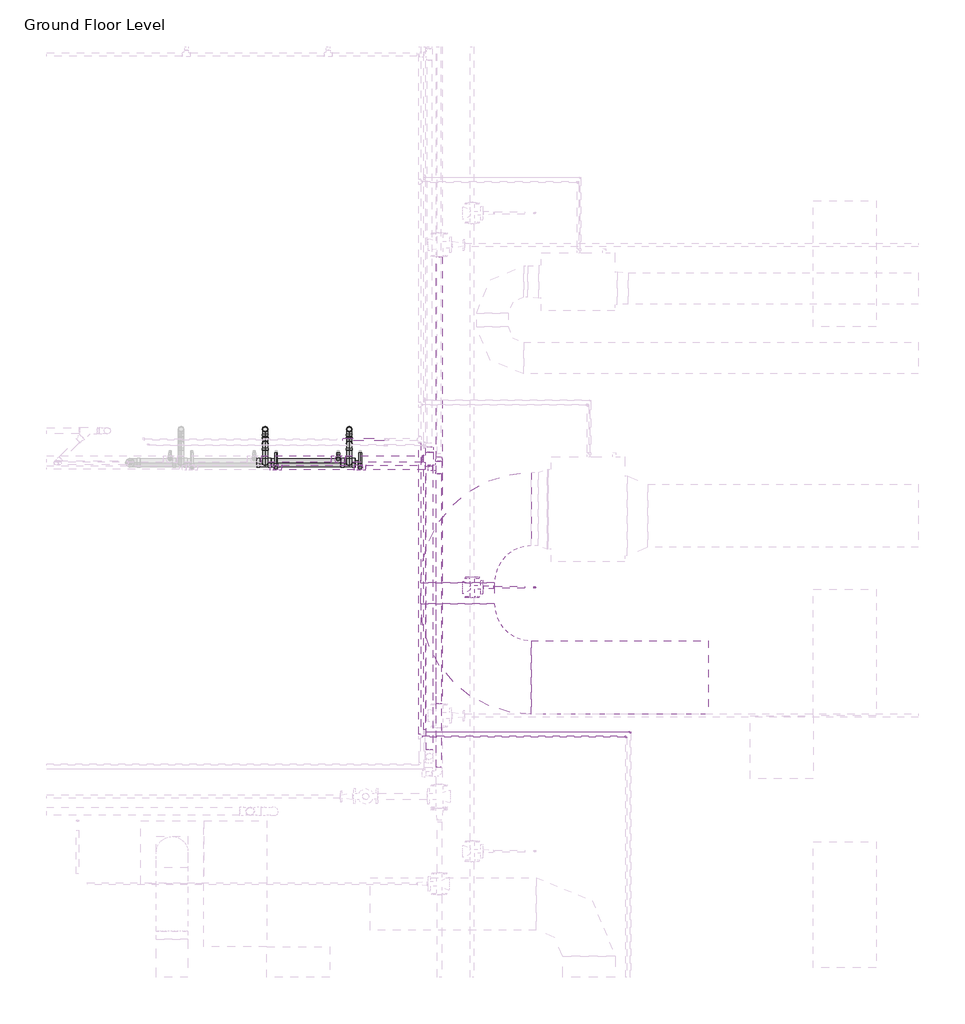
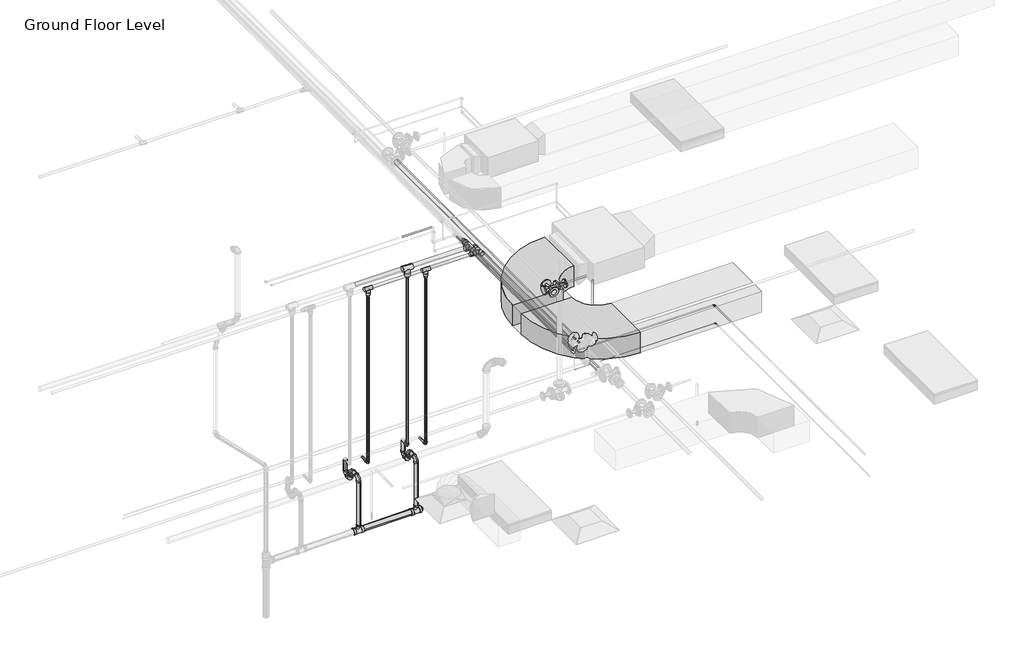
# One storey, part 17 of 74: 31 pipe segments, 29 pipe fittings, 2 duct fittings, 2 duct segments, 1 fire suppression terminal.
"""IFC4 building model written with IfcOpenShell, lengths in millimetres."""

from ifc_helpers import new_model, si_unit, point, frame, frame_2d, origin, place, context, project, spatial, polyline, circle_curve, trimmed, segment, composite_curve, outline, extrude, transform, mapped, element, save
from components import m_rectangular_elbow_radius_1_w_8a62b27e, m_sprinkler_pendent_15_mm_pendent_06fcbd8e, m_bend_pvc_sch_40_dwv_standard_1e7bdcc1, m_bend_pvc_sch_40_dwv_standard_776e50c4, m_bend_pvc_sch_40_dwv_standard_aab78995, m_elbow_generic_standard_a088f956, m_elbow_generic_standard_2a704253, m_plug_pvc_sch_40_dwv_standard_af737ab4, m_reducer_flanged_cs_class_150_standard_d42b2106, m_tee_reducing_sanitary_pvc_sch_40_dwv_standard_21d2848c, m_tee_round_base_flanged_cs_class_150_standard_7e5987a1, standard_b266ab3f, standard_08ff6011, standard_cd25fed3, standard_5079833c, standard_bbae78af, standard_a995ec02, standard_83629b21, standard_9d5ac8af, standard_77f9104c

model = new_model("IFC4")

# Units and contexts
model_context = context("Model", 3, world=origin())
ifc_project = project(units=[si_unit("LENGTHUNIT", "METRE", prefix="MILLI")], contexts=[model_context])

# Site, building, storey
site = spatial("IfcSite", under=ifc_project)
building = spatial("IfcBuilding", under=site)
storey = spatial("IfcBuildingStorey", under=building, Name="Ground Floor Level", Elevation=900.0)

# Duct fittings
placement = place(None, origin())
m_rectangular_elbow_radius_1_w_shape = m_rectangular_elbow_radius_1_w_8a62b27e(model_context)
element("IfcDuctFitting", 1, ObjectType="M_Rectangular Elbow - Radius : 1 W", at=placement, inside=storey, context=model_context, shape_type="MappedRepresentation", body=[
    mapped(m_rectangular_elbow_radius_1_w_shape, transform((5857.7672394, -33301.2726336, 4032.4375), x_axis=(-1.0, 0.0, 0.0), y_axis=(0.0, -1.0, 0.0), z_axis=(0.0, 0.0, 1.0))),
])
element("IfcDuctFitting", 2, ObjectType="M_Rectangular Elbow - Radius : 1 W", at=placement, inside=storey, context=model_context, shape_type="MappedRepresentation", body=[
    mapped(m_rectangular_elbow_radius_1_w_shape, transform((5857.7672394, -34901.2726336, 4032.4375), x_axis=(0.0, -1.0, 0.0), y_axis=(1.0, 0.0, 0.0), z_axis=(0.0, 0.0, 1.0))),
])

# Duct segments
element("IfcDuctSegment", 3, ObjectType="Radius Elbows / Taps", at=placement, inside=storey, context=model_context, shape_type="SweptSolid", body=[
    extrude(outline(polyline([(5507.7672394, -34001.2726336), (6207.7672394, -34001.2726336), (6207.7672394, -34201.2726336), (5507.7672394, -34201.2726336), (5507.7672394, -34001.2726336)])), frame((0.0, 0.0, 3882.4375), z_axis=(0.0, 0.0, 1.0), x_axis=(1.0, 0.0, 0.0)), (0.0, 0.0, 1.0), 300.0),
])
element("IfcDuctSegment", 4, ObjectType="Radius Elbows / Taps", at=placement, inside=storey, context=model_context, shape_type="SweptSolid", body=[
    extrude(outline(polyline([(6557.7672394, -35251.2726336), (6557.7672394, -34551.2726336), (8242.7672394, -34551.2726336), (8242.7672394, -35251.2726336), (6557.7672394, -35251.2726336)])), frame((0.0, 0.0, 3882.4375), z_axis=(0.0, 0.0, 1.0), x_axis=(1.0, 0.0, 0.0)), (0.0, 0.0, 1.0), 300.0),
])

# Fire suppression terminal
m_sprinkler_pendent_15_mm_pendent_shape = m_sprinkler_pendent_15_mm_pendent_06fcbd8e(model_context)
element("IfcFireSuppressionTerminal", 5, ObjectType="M_Sprinkler - Pendent : 15 mm Pendent", at=placement, inside=storey, context=model_context, shape_type="MappedRepresentation", body=[
    mapped(m_sprinkler_pendent_15_mm_pendent_shape, transform((6592.5481019, -34045.051432, 3650.0), x_axis=(1.0, 0.0, 0.0), y_axis=(0.0, 1.0, 0.0), z_axis=(0.0, 0.0, 1.0))),
])

# Pipe fittings
m_bend_pvc_sch_40_dwv_standard_shape = m_bend_pvc_sch_40_dwv_standard_1e7bdcc1(model_context)
element("IfcPipeFitting", 6, ObjectType="M_Bend - PVC - Sch 40 - DWV : Standard", at=placement, inside=storey, context=model_context, shape_type="MappedRepresentation", body=[
    mapped(m_bend_pvc_sch_40_dwv_standard_shape, transform((4826.7846789, -32541.2164355, 1350.0), x_axis=(0.0, 0.0, -1.0), y_axis=(0.0, -1.0, 0.0), z_axis=(-1.0, 0.0, 0.0))),
])
element("IfcPipeFitting", 7, ObjectType="M_Bend - PVC - Sch 40 - DWV : Standard", at=placement, inside=storey, context=model_context, shape_type="MappedRepresentation", body=[
    mapped(m_bend_pvc_sch_40_dwv_standard_shape, transform((4026.7846789, -32541.2164355, 1350.0), x_axis=(0.0, 0.0, -1.0), y_axis=(0.0, -1.0, 0.0), z_axis=(-1.0, 0.0, 0.0))),
])
element("IfcPipeFitting", 8, ObjectType="M_Bend - PVC - Sch 40 - DWV : Standard", at=placement, inside=storey, context=model_context, shape_type="MappedRepresentation", body=[
    mapped(m_bend_pvc_sch_40_dwv_standard_shape, transform((4026.7846789, -32858.7119065, 1488.4250453), x_axis=(0.0, -0.9999500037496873, -0.009999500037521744), y_axis=(0.0, 0.009999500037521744, -0.9999500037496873), z_axis=(1.0, 0.0, 0.0))),
])
m_bend_pvc_sch_40_dwv_standard_2_shape = m_bend_pvc_sch_40_dwv_standard_776e50c4(model_context)
element("IfcPipeFitting", 9, ObjectType="M_Bend - PVC - Sch 40 - DWV : Standard", at=placement, inside=storey, context=model_context, shape_type="MappedRepresentation", body=[
    mapped(m_bend_pvc_sch_40_dwv_standard_2_shape, transform((4826.7846789, -32676.2164355, 1348.45), x_axis=(0.0, -0.9999500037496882, -0.009999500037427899), y_axis=(0.0, -0.009999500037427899, 0.9999500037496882), z_axis=(-1.0, 0.0, 0.0))),
])
element("IfcPipeFitting", 10, ObjectType="M_Bend - PVC - Sch 40 - DWV : Standard", at=placement, inside=storey, context=model_context, shape_type="MappedRepresentation", body=[
    mapped(m_bend_pvc_sch_40_dwv_standard_2_shape, transform((4826.7846789, -32676.2164355, 1490.0), x_axis=(0.0, 0.0, 1.0), y_axis=(0.0, -1.0, 0.0), z_axis=(1.0, 0.0, 0.0))),
])
element("IfcPipeFitting", 11, ObjectType="M_Bend - PVC - Sch 40 - DWV : Standard", at=placement, inside=storey, context=model_context, shape_type="MappedRepresentation", body=[
    mapped(m_bend_pvc_sch_40_dwv_standard_2_shape, transform((4026.7846789, -32676.2164355, 1348.45), x_axis=(0.0, -0.9999500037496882, -0.009999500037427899), y_axis=(0.0, -0.009999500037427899, 0.9999500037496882), z_axis=(-1.0, 0.0, 0.0))),
])
element("IfcPipeFitting", 12, ObjectType="M_Bend - PVC - Sch 40 - DWV : Standard", at=placement, inside=storey, context=model_context, shape_type="MappedRepresentation", body=[
    mapped(m_bend_pvc_sch_40_dwv_standard_2_shape, transform((4026.7846789, -32676.2164355, 1490.0), x_axis=(0.0, 0.0, 1.0), y_axis=(0.0, -1.0, 0.0), z_axis=(1.0, 0.0, 0.0))),
])
m_bend_pvc_sch_40_dwv_standard_3_shape = m_bend_pvc_sch_40_dwv_standard_aab78995(model_context)
element("IfcPipeFitting", 13, ObjectType="M_Bend - PVC - Sch 40 - DWV : Standard", at=placement, inside=storey, context=model_context, shape_type="MappedRepresentation", body=[
    mapped(m_bend_pvc_sch_40_dwv_standard_3_shape, transform((4826.7846789, -32858.7119065, 1488.4250453), x_axis=(0.0, -0.999968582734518, -0.007926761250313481), y_axis=(0.0, 0.007926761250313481, -0.999968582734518), z_axis=(1.0, 0.0, 0.0))),
])
m_elbow_generic_standard_shape = m_elbow_generic_standard_a088f956(model_context)
element("IfcPipeFitting", 14, ObjectType="M_Elbow - Generic : Standard", at=placement, inside=storey, context=model_context, shape_type="MappedRepresentation", body=[
    mapped(m_elbow_generic_standard_shape, transform((7462.8951827, -35463.1206952, 4390.0), x_axis=(0.0, 1.0, 0.0), y_axis=(-1.0, 0.0, 0.0), z_axis=(0.0, 0.0, 1.0))),
])
m_elbow_generic_standard_2_shape = m_elbow_generic_standard_2a704253(model_context)
element("IfcPipeFitting", 15, ObjectType="M_Elbow - Generic : Standard", at=placement, inside=storey, context=model_context, shape_type="MappedRepresentation", body=[
    mapped(m_elbow_generic_standard_2_shape, transform((7503.9904113, -35420.6009836, 4084.9), x_axis=(0.0, 1.0, 0.0), y_axis=(-1.0, 0.0, 0.0), z_axis=(0.0, 0.0, 1.0))),
])
m_plug_pvc_sch_40_dwv_standard_shape = m_plug_pvc_sch_40_dwv_standard_af737ab4(model_context)
element("IfcPipeFitting", 16, ObjectType="M_Plug - PVC - Sch 40 - DWV : Standard", at=placement, inside=storey, context=model_context, shape_type="MappedRepresentation", body=[
    mapped(m_plug_pvc_sch_40_dwv_standard_shape, transform((4886.2674481, -32858.7119065, 723.0545203), x_axis=(0.9999500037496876, 0.0, 0.009999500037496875), y_axis=(0.009999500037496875, 0.0, -0.9999500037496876), z_axis=(0.0, 1.0, 0.0))),
])
m_reducer_flanged_cs_class_150_standard_shape = m_reducer_flanged_cs_class_150_standard_d42b2106(model_context)
element("IfcPipeFitting", 17, ObjectType="M_Reducer - Flanged - CS - Class 150 : Standard", at=placement, inside=storey, context=model_context, shape_type="MappedRepresentation", body=[
    mapped(m_reducer_flanged_cs_class_150_standard_shape, transform((6097.7664057, -34045.051432, 4291.2754753), x_axis=(1.0, 0.0, 0.0), y_axis=(0.0, 0.0, -1.0), z_axis=(0.0, 1.0, 0.0))),
])
m_tee_reducing_sanitary_pvc_sch_40_dwv_standard_shape = m_tee_reducing_sanitary_pvc_sch_40_dwv_standard_21d2848c(model_context)
element("IfcPipeFitting", 18, ObjectType="M_Tee Reducing Sanitary - PVC - Sch 40 - DWV : Standard", at=placement, inside=storey, context=model_context, shape_type="MappedRepresentation", body=[
    mapped(m_tee_reducing_sanitary_pvc_sch_40_dwv_standard_shape, transform((4826.7846789, -32858.7119065, 722.4596926), x_axis=(0.9999500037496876, 0.0, 0.009999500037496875), y_axis=(0.009999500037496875, 0.0, -0.9999500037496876), z_axis=(0.0, 1.0, 0.0))),
])
element("IfcPipeFitting", 19, ObjectType="M_Tee Reducing Sanitary - PVC - Sch 40 - DWV : Standard", at=placement, inside=storey, context=model_context, shape_type="MappedRepresentation", body=[
    mapped(m_tee_reducing_sanitary_pvc_sch_40_dwv_standard_shape, transform((4026.7846789, -32858.7119065, 714.4596926), x_axis=(0.9999500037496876, 0.0, 0.009999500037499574), y_axis=(0.009999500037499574, 0.0, -0.9999500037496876), z_axis=(0.0, 1.0, 0.0))),
])
m_tee_round_base_flanged_cs_class_150_standard_shape = m_tee_round_base_flanged_cs_class_150_standard_7e5987a1(model_context)
element("IfcPipeFitting", 20, ObjectType="M_Tee Round Base - Flanged - CS - Class 150 : Standard", at=placement, inside=storey, context=model_context, shape_type="MappedRepresentation", body=[
    mapped(m_tee_round_base_flanged_cs_class_150_standard_shape, transform((5997.057812, -34045.051432, 4291.0943441), x_axis=(0.0, 1.0, 0.0), y_axis=(-1.0, 0.0, 0.0), z_axis=(0.0, 0.0, 1.0))),
])
standard_shape = standard_b266ab3f(model_context)
element("IfcPipeFitting", 21, ObjectType="M_Elbow - CPVC - Sch 40 : Standard", at=placement, inside=storey, context=model_context, shape_type="MappedRepresentation", body=[
    mapped(standard_shape, transform((4722.4697583, -32824.9853451, 1690.0), x_axis=(0.0, 0.0, -1.0), y_axis=(0.0, 1.0, 0.0), z_axis=(1.0, 0.0, 0.0))),
])
element("IfcPipeFitting", 22, ObjectType="M_Elbow - CPVC - Sch 40 : Standard", at=placement, inside=storey, context=model_context, shape_type="MappedRepresentation", body=[
    mapped(standard_shape, transform((4931.0995995, -32905.870708, 1690.0), x_axis=(0.0, -1.0, 0.0), y_axis=(0.0, 0.0, 1.0), z_axis=(-1.0, 0.0, 0.0))),
])
element("IfcPipeFitting", 23, ObjectType="M_Elbow - CPVC - Sch 40 : Standard", at=placement, inside=storey, context=model_context, shape_type="MappedRepresentation", body=[
    mapped(standard_shape, transform((4131.0995995, -32905.870708, 1690.0), x_axis=(0.0, -1.0, 0.0), y_axis=(0.0, 0.0, 1.0), z_axis=(-1.0, 0.0, 0.0))),
])
standard_2_shape = standard_08ff6011(model_context)
element("IfcPipeFitting", 24, ObjectType="M_Tee - CPVC - Sch 40 : Standard", at=placement, inside=storey, context=model_context, shape_type="MappedRepresentation", body=[
    mapped(standard_2_shape, transform((4931.0995995, -32905.870708, 4250.0), x_axis=(1.0, 0.0, 0.0), y_axis=(0.0, 0.0, 1.0), z_axis=(0.0, -1.0, 0.0))),
])
element("IfcPipeFitting", 25, ObjectType="M_Tee - CPVC - Sch 40 : Standard", at=placement, inside=storey, context=model_context, shape_type="MappedRepresentation", body=[
    mapped(standard_2_shape, transform((4131.0995995, -32905.870708, 4250.0), x_axis=(1.0, 0.0, 0.0), y_axis=(0.0, 0.0, 1.0), z_axis=(0.0, -1.0, 0.0))),
])
standard_3_shape = standard_cd25fed3(model_context)
element("IfcPipeFitting", 26, ObjectType="M_Tee - CPVC - Sch 40 : Standard", at=placement, inside=storey, context=model_context, shape_type="MappedRepresentation", body=[
    mapped(standard_3_shape, transform((5589.646628, -32824.9853451, 4300.0), x_axis=(0.0, 1.0, 0.0), y_axis=(1.0, 0.0, 0.0), z_axis=(0.0, 0.0, -1.0))),
])
element("IfcPipeFitting", 27, ObjectType="M_Tee - CPVC - Sch 40 : Standard", at=placement, inside=storey, context=model_context, shape_type="MappedRepresentation", body=[
    mapped(standard_3_shape, transform((4722.4697583, -32824.9853451, 4300.0), x_axis=(-1.0, 0.0, 0.0), y_axis=(0.0, 0.0, 1.0), z_axis=(0.0, 1.0, 0.0))),
])
standard_4_shape = standard_5079833c(model_context)
element("IfcPipeFitting", 28, ObjectType="M_Coupling Reducing - CPVC - Sch 40 : Standard", at=placement, inside=storey, context=model_context, shape_type="MappedRepresentation", body=[
    mapped(standard_4_shape, transform((5589.646628, -32758.3103451, 4300.0), x_axis=(0.0, 1.0, 0.0), y_axis=(-1.0, 0.0, 0.0), z_axis=(0.0, 0.0, 1.0))),
])
standard_5_shape = standard_bbae78af(model_context)
element("IfcPipeFitting", 29, ObjectType="M_Tee - CPVC - Sch 40 : Standard", at=placement, inside=storey, context=model_context, shape_type="MappedRepresentation", body=[
    mapped(standard_5_shape, transform((5680.5575802, -32905.870708, 4250.0), x_axis=(0.0, -1.0, 0.0), y_axis=(1.0, 0.0, 0.0), z_axis=(0.0, 0.0, 1.0))),
])
standard_6_shape = standard_a995ec02(model_context)
element("IfcPipeFitting", 30, ObjectType="M_Coupling Reducing - CPVC - Sch 40 : Standard", at=placement, inside=storey, context=model_context, shape_type="MappedRepresentation", body=[
    mapped(standard_6_shape, transform((5621.8073802, -32905.870708, 4250.0), x_axis=(-1.0, 0.0, 0.0), y_axis=(0.0, -1.0, 0.0), z_axis=(0.0, 0.0, 1.0))),
])
standard_7_shape = standard_83629b21(model_context)
element("IfcPipeFitting", 31, ObjectType="M_Coupling Reducing - CPVC - Sch 40 : Standard", at=placement, inside=storey, context=model_context, shape_type="MappedRepresentation", body=[
    mapped(standard_7_shape, transform((4931.0995995, -32905.870708, 4196.025), x_axis=(0.0, 0.0, -1.0), y_axis=(-1.0, 0.0, 0.0), z_axis=(0.0, 1.0, 0.0))),
])
element("IfcPipeFitting", 32, ObjectType="M_Coupling Reducing - CPVC - Sch 40 : Standard", at=placement, inside=storey, context=model_context, shape_type="MappedRepresentation", body=[
    mapped(standard_7_shape, transform((4131.0995995, -32905.870708, 4196.025), x_axis=(0.0, 0.0, -1.0), y_axis=(-1.0, 0.0, 0.0), z_axis=(0.0, 1.0, 0.0))),
])
standard_8_shape = standard_9d5ac8af(model_context)
element("IfcPipeFitting", 33, ObjectType="M_Coupling Reducing - CPVC - Sch 40 : Standard", at=placement, inside=storey, context=model_context, shape_type="MappedRepresentation", body=[
    mapped(standard_8_shape, transform((4722.4697583, -32824.9853451, 4233.325), x_axis=(0.0, 0.0, -1.0), y_axis=(-1.0, 0.0, 0.0), z_axis=(0.0, 1.0, 0.0))),
])
standard_9_shape = standard_77f9104c(model_context)
element("IfcPipeFitting", 34, ObjectType="M_Coupling Reducing - CPVC - Sch 40 : Standard", at=placement, inside=storey, context=model_context, shape_type="MappedRepresentation", body=[
    mapped(standard_9_shape, transform((5680.5575802, -32847.120508, 4250.0), x_axis=(0.0, 1.0, 0.0), y_axis=(-1.0, 0.0, 0.0), z_axis=(0.0, 0.0, 1.0))),
])

# Pipe segments
element("IfcPipeSegment", 35, ObjectType="CPVC", at=placement, inside=storey, context=model_context, shape_type="SweptSolid", body=[
    extrude(outline(composite_curve([segment(trimmed(circle_curve(frame_2d((4300.0, 5589.646628)), 30.1625), [point((4300.0, 5559.484128))], [point((4269.8375, 5589.646628))], False, "CARTESIAN"), True, "CONTINUOUS"), segment(trimmed(circle_curve(frame_2d((4300.0, 5589.646628)), 30.1625), [point((4269.8375, 5589.646628))], [point((4300.0, 5619.809128))], False, "CARTESIAN"), True, "CONTINUOUS"), segment(trimmed(circle_curve(frame_2d((4300.0, 5589.646628)), 30.1625), [point((4300.0, 5619.809128))], [point((4330.1625, 5589.646628))], False, "CARTESIAN"), True, "CONTINUOUS"), segment(trimmed(circle_curve(frame_2d((4300.0, 5589.646628)), 30.1625), [point((4330.1625, 5589.646628))], [point((4300.0, 5559.484128))], False, "CARTESIAN"), True, "CONTINUOUS")], self_intersect=False)), frame((0.0, -35589.4179431, 0.0), z_axis=(0.0, 1.0, 0.0), x_axis=(0.0, 0.0, 1.0)), (0.0, 0.0, 1.0), 2697.757598),
])
element("IfcPipeSegment", 36, ObjectType="CPVC", at=placement, inside=storey, context=model_context, shape_type="SweptSolid", body=[
    extrude(outline(composite_curve([segment(trimmed(circle_curve(frame_2d((-32824.9853451, 4300.0)), 30.1625), [point((-32855.1478451, 4300.0))], [point((-32824.9853451, 4330.1625))], False, "CARTESIAN"), True, "CONTINUOUS"), segment(trimmed(circle_curve(frame_2d((-32824.9853451, 4300.0)), 30.1625), [point((-32824.9853451, 4330.1625))], [point((-32794.8228451, 4300.0))], False, "CARTESIAN"), True, "CONTINUOUS"), segment(trimmed(circle_curve(frame_2d((-32824.9853451, 4300.0)), 30.1625), [point((-32794.8228451, 4300.0))], [point((-32824.9853451, 4269.8375))], False, "CARTESIAN"), True, "CONTINUOUS"), segment(trimmed(circle_curve(frame_2d((-32824.9853451, 4300.0)), 30.1625), [point((-32824.9853451, 4269.8375))], [point((-32855.1478451, 4300.0))], False, "CARTESIAN"), True, "CONTINUOUS")], self_intersect=False)), frame((4789.1447583, 0.0, 0.0), z_axis=(1.0, 0.0, 0.0), x_axis=(0.0, 1.0, 0.0)), (0.0, 0.0, 1.0), 733.8268697),
])
element("IfcPipeSegment", 37, ObjectType="CPVC", at=placement, inside=storey, context=model_context, shape_type="SweptSolid", body=[
    extrude(outline(composite_curve([segment(trimmed(circle_curve(frame_2d((1690.0, 4722.4697583)), 13.335), [point((1690.0, 4735.8047583))], [point((1703.335, 4722.4697583))], False, "CARTESIAN"), True, "CONTINUOUS"), segment(trimmed(circle_curve(frame_2d((1690.0, 4722.4697583)), 13.335), [point((1703.335, 4722.4697583))], [point((1690.0, 4709.1347583))], False, "CARTESIAN"), True, "CONTINUOUS"), segment(trimmed(circle_curve(frame_2d((1690.0, 4722.4697583)), 13.335), [point((1690.0, 4709.1347583))], [point((1676.665, 4722.4697583))], False, "CARTESIAN"), True, "CONTINUOUS"), segment(trimmed(circle_curve(frame_2d((1690.0, 4722.4697583)), 13.335), [point((1676.665, 4722.4697583))], [point((1690.0, 4735.8047583))], False, "CARTESIAN"), True, "CONTINUOUS")], self_intersect=False)), frame((0.0, -32789.6602951, 0.0), z_axis=(0.0, 1.0, 0.0), x_axis=(0.0, 0.0, 1.0)), (0.0, 0.0, 1.0), 24.8756485),
])
element("IfcPipeSegment", 38, ObjectType="CPVC", at=placement, inside=storey, context=model_context, shape_type="SweptSolid", body=[
    extrude(outline(composite_curve([segment(trimmed(circle_curve(frame_2d((4722.4697583, -32824.9853451)), 13.335), [point((4735.8047583, -32824.9853451))], [point((4722.4697583, -32838.3203451))], False, "CARTESIAN"), True, "CONTINUOUS"), segment(trimmed(circle_curve(frame_2d((4722.4697583, -32824.9853451)), 13.335), [point((4722.4697583, -32838.3203451))], [point((4709.1347583, -32824.9853451))], False, "CARTESIAN"), True, "CONTINUOUS"), segment(trimmed(circle_curve(frame_2d((4722.4697583, -32824.9853451)), 13.335), [point((4709.1347583, -32824.9853451))], [point((4722.4697583, -32811.6503451))], False, "CARTESIAN"), True, "CONTINUOUS"), segment(trimmed(circle_curve(frame_2d((4722.4697583, -32824.9853451)), 13.335), [point((4722.4697583, -32811.6503451))], [point((4735.8047583, -32824.9853451))], False, "CARTESIAN"), True, "CONTINUOUS")], self_intersect=False)), frame((0.0, 0.0, 1725.32505), z_axis=(0.0, 0.0, 1.0), x_axis=(1.0, 0.0, 0.0)), (0.0, 0.0, 1.0), 2431.503075),
])
element("IfcPipeSegment", 39, ObjectType="CPVC", at=placement, inside=storey, context=model_context, shape_type="SweptSolid", body=[
    extrude(outline(composite_curve([segment(trimmed(circle_curve(frame_2d((-32824.9853451, 4300.0)), 30.1625), [point((-32855.1478451, 4300.0))], [point((-32824.9853451, 4330.1625))], False, "CARTESIAN"), True, "CONTINUOUS"), segment(trimmed(circle_curve(frame_2d((-32824.9853451, 4300.0)), 30.1625), [point((-32824.9853451, 4330.1625))], [point((-32794.8228451, 4300.0))], False, "CARTESIAN"), True, "CONTINUOUS"), segment(trimmed(circle_curve(frame_2d((-32824.9853451, 4300.0)), 30.1625), [point((-32794.8228451, 4300.0))], [point((-32824.9853451, 4269.8375))], False, "CARTESIAN"), True, "CONTINUOUS"), segment(trimmed(circle_curve(frame_2d((-32824.9853451, 4300.0)), 30.1625), [point((-32824.9853451, 4269.8375))], [point((-32855.1478451, 4300.0))], False, "CARTESIAN"), True, "CONTINUOUS")], self_intersect=False)), frame((3989.1447583, 0.0, 0.0), z_axis=(1.0, 0.0, 0.0), x_axis=(0.0, 1.0, 0.0)), (0.0, 0.0, 1.0), 666.65),
])
element("IfcPipeSegment", 40, ObjectType="CPVC", at=placement, inside=storey, context=model_context, shape_type="SweptSolid", body=[
    extrude(outline(composite_curve([segment(trimmed(circle_curve(frame_2d((4250.0, 5680.5575802)), 24.13), [point((4250.0, 5704.6875802))], [point((4274.13, 5680.5575802))], False, "CARTESIAN"), True, "CONTINUOUS"), segment(trimmed(circle_curve(frame_2d((4250.0, 5680.5575802)), 24.13), [point((4274.13, 5680.5575802))], [point((4250.0, 5656.4275802))], False, "CARTESIAN"), True, "CONTINUOUS"), segment(trimmed(circle_curve(frame_2d((4250.0, 5680.5575802)), 24.13), [point((4250.0, 5656.4275802))], [point((4225.87, 5680.5575802))], False, "CARTESIAN"), True, "CONTINUOUS"), segment(trimmed(circle_curve(frame_2d((4250.0, 5680.5575802)), 24.13), [point((4225.87, 5680.5575802))], [point((4250.0, 5704.6875802))], False, "CARTESIAN"), True, "CONTINUOUS")], self_intersect=False)), frame((0.0, -35756.740802, 0.0), z_axis=(0.0, 1.0, 0.0), x_axis=(0.0, 0.0, 1.0)), (0.0, 0.0, 1.0), 2792.119894),
])
element("IfcPipeSegment", 41, ObjectType="CPVC", at=placement, inside=storey, context=model_context, shape_type="SweptSolid", body=[
    extrude(outline(composite_curve([segment(trimmed(circle_curve(frame_2d((1690.0, 4931.0995995)), 13.335), [point((1690.0, 4917.7645995))], [point((1676.665, 4931.0995995))], False, "CARTESIAN"), True, "CONTINUOUS"), segment(trimmed(circle_curve(frame_2d((1690.0, 4931.0995995)), 13.335), [point((1676.665, 4931.0995995))], [point((1690.0, 4944.4345995))], False, "CARTESIAN"), True, "CONTINUOUS"), segment(trimmed(circle_curve(frame_2d((1690.0, 4931.0995995)), 13.335), [point((1690.0, 4944.4345995))], [point((1703.335, 4931.0995995))], False, "CARTESIAN"), True, "CONTINUOUS"), segment(trimmed(circle_curve(frame_2d((1690.0, 4931.0995995)), 13.335), [point((1703.335, 4931.0995995))], [point((1690.0, 4917.7645995))], False, "CARTESIAN"), True, "CONTINUOUS")], self_intersect=False)), frame((0.0, -32870.545658, 0.0), z_axis=(0.0, 1.0, 0.0), x_axis=(0.0, 0.0, 1.0)), (0.0, 0.0, 1.0), 105.7610114),
])
element("IfcPipeSegment", 42, ObjectType="CPVC", at=placement, inside=storey, context=model_context, shape_type="SweptSolid", body=[
    extrude(outline(composite_curve([segment(trimmed(circle_curve(frame_2d((4931.0995995, -32905.870708)), 13.335), [point((4917.7645995, -32905.870708))], [point((4931.0995995, -32892.535708))], False, "CARTESIAN"), True, "CONTINUOUS"), segment(trimmed(circle_curve(frame_2d((4931.0995995, -32905.870708)), 13.335), [point((4931.0995995, -32892.535708))], [point((4944.4345995, -32905.870708))], False, "CARTESIAN"), True, "CONTINUOUS"), segment(trimmed(circle_curve(frame_2d((4931.0995995, -32905.870708)), 13.335), [point((4944.4345995, -32905.870708))], [point((4931.0995995, -32919.205708))], False, "CARTESIAN"), True, "CONTINUOUS"), segment(trimmed(circle_curve(frame_2d((4931.0995995, -32905.870708)), 13.335), [point((4931.0995995, -32919.205708))], [point((4917.7645995, -32905.870708))], False, "CARTESIAN"), True, "CONTINUOUS")], self_intersect=False)), frame((0.0, 0.0, 1725.32505), z_axis=(0.0, 0.0, 1.0), x_axis=(1.0, 0.0, 0.0)), (0.0, 0.0, 1.0), 2407.883075),
])
element("IfcPipeSegment", 43, ObjectType="CPVC", at=placement, inside=storey, context=model_context, shape_type="SweptSolid", body=[
    extrude(outline(composite_curve([segment(trimmed(circle_curve(frame_2d((-32905.870708, 4250.0)), 21.082), [point((-32884.788708, 4250.0))], [point((-32905.870708, 4228.918))], False, "CARTESIAN"), True, "CONTINUOUS"), segment(trimmed(circle_curve(frame_2d((-32905.870708, 4250.0)), 21.082), [point((-32905.870708, 4228.918))], [point((-32926.952708, 4250.0))], False, "CARTESIAN"), True, "CONTINUOUS"), segment(trimmed(circle_curve(frame_2d((-32905.870708, 4250.0)), 21.082), [point((-32926.952708, 4250.0))], [point((-32905.870708, 4271.082))], False, "CARTESIAN"), True, "CONTINUOUS"), segment(trimmed(circle_curve(frame_2d((-32905.870708, 4250.0)), 21.082), [point((-32905.870708, 4271.082))], [point((-32884.788708, 4250.0))], False, "CARTESIAN"), True, "CONTINUOUS")], self_intersect=False)), frame((4985.0745995, 0.0, 0.0), z_axis=(1.0, 0.0, 0.0), x_axis=(0.0, 1.0, 0.0)), (0.0, 0.0, 1.0), 558.9940307),
])
element("IfcPipeSegment", 44, ObjectType="CPVC", at=placement, inside=storey, context=model_context, shape_type="SweptSolid", body=[
    extrude(outline(composite_curve([segment(trimmed(circle_curve(frame_2d((1690.0, 4131.0995995)), 13.335), [point((1690.0, 4117.7645995))], [point((1676.665, 4131.0995995))], False, "CARTESIAN"), True, "CONTINUOUS"), segment(trimmed(circle_curve(frame_2d((1690.0, 4131.0995995)), 13.335), [point((1676.665, 4131.0995995))], [point((1690.0, 4144.4345995))], False, "CARTESIAN"), True, "CONTINUOUS"), segment(trimmed(circle_curve(frame_2d((1690.0, 4131.0995995)), 13.335), [point((1690.0, 4144.4345995))], [point((1703.335, 4131.0995995))], False, "CARTESIAN"), True, "CONTINUOUS"), segment(trimmed(circle_curve(frame_2d((1690.0, 4131.0995995)), 13.335), [point((1703.335, 4131.0995995))], [point((1690.0, 4117.7645995))], False, "CARTESIAN"), True, "CONTINUOUS")], self_intersect=False)), frame((0.0, -32870.545658, 0.0), z_axis=(0.0, 1.0, 0.0), x_axis=(0.0, 0.0, 1.0)), (0.0, 0.0, 1.0), 105.7610114),
])
element("IfcPipeSegment", 45, ObjectType="CPVC", at=placement, inside=storey, context=model_context, shape_type="SweptSolid", body=[
    extrude(outline(composite_curve([segment(trimmed(circle_curve(frame_2d((4131.0995995, -32905.870708)), 13.335), [point((4117.7645995, -32905.870708))], [point((4131.0995995, -32892.535708))], False, "CARTESIAN"), True, "CONTINUOUS"), segment(trimmed(circle_curve(frame_2d((4131.0995995, -32905.870708)), 13.335), [point((4131.0995995, -32892.535708))], [point((4144.4345995, -32905.870708))], False, "CARTESIAN"), True, "CONTINUOUS"), segment(trimmed(circle_curve(frame_2d((4131.0995995, -32905.870708)), 13.335), [point((4144.4345995, -32905.870708))], [point((4131.0995995, -32919.205708))], False, "CARTESIAN"), True, "CONTINUOUS"), segment(trimmed(circle_curve(frame_2d((4131.0995995, -32905.870708)), 13.335), [point((4131.0995995, -32919.205708))], [point((4117.7645995, -32905.870708))], False, "CARTESIAN"), True, "CONTINUOUS")], self_intersect=False)), frame((0.0, 0.0, 1725.32505), z_axis=(0.0, 0.0, 1.0), x_axis=(1.0, 0.0, 0.0)), (0.0, 0.0, 1.0), 2407.883075),
])
element("IfcPipeSegment", 46, ObjectType="CPVC", at=placement, inside=storey, context=model_context, shape_type="SweptSolid", body=[
    extrude(outline(composite_curve([segment(trimmed(circle_curve(frame_2d((-32905.870708, 4250.0)), 21.082), [point((-32884.788708, 4250.0))], [point((-32905.870708, 4228.918))], False, "CARTESIAN"), True, "CONTINUOUS"), segment(trimmed(circle_curve(frame_2d((-32905.870708, 4250.0)), 21.082), [point((-32905.870708, 4228.918))], [point((-32926.952708, 4250.0))], False, "CARTESIAN"), True, "CONTINUOUS"), segment(trimmed(circle_curve(frame_2d((-32905.870708, 4250.0)), 21.082), [point((-32926.952708, 4250.0))], [point((-32905.870708, 4271.082))], False, "CARTESIAN"), True, "CONTINUOUS"), segment(trimmed(circle_curve(frame_2d((-32905.870708, 4250.0)), 21.082), [point((-32905.870708, 4271.082))], [point((-32884.788708, 4250.0))], False, "CARTESIAN"), True, "CONTINUOUS")], self_intersect=False)), frame((4185.0745995, 0.0, 0.0), z_axis=(1.0, 0.0, 0.0), x_axis=(0.0, 1.0, 0.0)), (0.0, 0.0, 1.0), 692.05),
])
element("IfcPipeSegment", 47, ObjectType="Copper", at=placement, inside=storey, context=model_context, shape_type="SweptSolid", body=[
    extrude(outline(composite_curve([segment(trimmed(circle_curve(frame_2d((-35463.1206952, 4390.0)), 6.5), [point((-35469.6206952, 4390.0))], [point((-35463.1206952, 4396.5))], False, "CARTESIAN"), True, "CONTINUOUS"), segment(trimmed(circle_curve(frame_2d((-35463.1206952, 4390.0)), 6.5), [point((-35463.1206952, 4396.5))], [point((-35456.6206952, 4390.0))], False, "CARTESIAN"), True, "CONTINUOUS"), segment(trimmed(circle_curve(frame_2d((-35463.1206952, 4390.0)), 6.5), [point((-35456.6206952, 4390.0))], [point((-35463.1206952, 4383.5))], False, "CARTESIAN"), True, "CONTINUOUS"), segment(trimmed(circle_curve(frame_2d((-35463.1206952, 4390.0)), 6.5), [point((-35463.1206952, 4383.5))], [point((-35469.6206952, 4390.0))], False, "CARTESIAN"), True, "CONTINUOUS")], self_intersect=False)), frame((5524.8826827, 0.0, 0.0), z_axis=(1.0, 0.0, 0.0), x_axis=(0.0, 1.0, 0.0)), (0.0, 0.0, 1.0), 1923.725),
])
element("IfcPipeSegment", 48, ObjectType="Copper", at=placement, inside=storey, context=model_context, shape_type="SweptSolid", body=[
    extrude(outline(composite_curve([segment(trimmed(circle_curve(frame_2d((4390.0, 5497.8951827)), 8.1), [point((4390.0, 5489.7951827))], [point((4381.9, 5497.8951827))], False, "CARTESIAN"), True, "CONTINUOUS"), segment(trimmed(circle_curve(frame_2d((4390.0, 5497.8951827)), 8.1), [point((4381.9, 5497.8951827))], [point((4390.0, 5505.9951827))], False, "CARTESIAN"), True, "CONTINUOUS"), segment(trimmed(circle_curve(frame_2d((4390.0, 5497.8951827)), 8.1), [point((4390.0, 5505.9951827))], [point((4398.1, 5497.8951827))], False, "CARTESIAN"), True, "CONTINUOUS"), segment(trimmed(circle_curve(frame_2d((4390.0, 5497.8951827)), 8.1), [point((4398.1, 5497.8951827))], [point((4390.0, 5489.7951827))], False, "CARTESIAN"), True, "CONTINUOUS")], self_intersect=False)), frame((0.0, -35440.8956952, 0.0), z_axis=(0.0, 1.0, 0.0), x_axis=(0.0, 0.0, 1.0)), (0.0, 0.0, 1.0), 2770.4294771),
])
element("IfcPipeSegment", 49, ObjectType="Copper", at=placement, inside=storey, context=model_context, shape_type="SweptSolid", body=[
    extrude(outline(composite_curve([segment(trimmed(circle_curve(frame_2d((4377.5, 5543.9904113)), 6.5), [point((4377.5, 5537.4904113))], [point((4371.0, 5543.9904113))], False, "CARTESIAN"), True, "CONTINUOUS"), segment(trimmed(circle_curve(frame_2d((4377.5, 5543.9904113)), 6.5), [point((4371.0, 5543.9904113))], [point((4377.5, 5550.4904113))], False, "CARTESIAN"), True, "CONTINUOUS"), segment(trimmed(circle_curve(frame_2d((4377.5, 5543.9904113)), 6.5), [point((4377.5, 5550.4904113))], [point((4384.0, 5543.9904113))], False, "CARTESIAN"), True, "CONTINUOUS"), segment(trimmed(circle_curve(frame_2d((4377.5, 5543.9904113)), 6.5), [point((4384.0, 5543.9904113))], [point((4377.5, 5537.4904113))], False, "CARTESIAN"), True, "CONTINUOUS")], self_intersect=False)), frame((0.0, -35399.9634836, 0.0), z_axis=(0.0, 1.0, 0.0), x_axis=(0.0, 0.0, 1.0)), (0.0, 0.0, 1.0), 2681.4232314),
])
element("IfcPipeSegment", 50, ObjectType="Copper", at=placement, inside=storey, context=model_context, shape_type="SweptSolid", body=[
    extrude(outline(composite_curve([segment(trimmed(circle_curve(frame_2d((-32638.716218, 4621.4908765)), 11.5), [point((-32650.216218, 4621.4908765))], [point((-32638.716218, 4632.9908765))], False, "CARTESIAN"), True, "CONTINUOUS"), segment(trimmed(circle_curve(frame_2d((-32638.716218, 4621.4908765)), 11.5), [point((-32638.716218, 4632.9908765))], [point((-32627.216218, 4621.4908765))], False, "CARTESIAN"), True, "CONTINUOUS"), segment(trimmed(circle_curve(frame_2d((-32638.716218, 4621.4908765)), 11.5), [point((-32627.216218, 4621.4908765))], [point((-32638.716218, 4609.9908765))], False, "CARTESIAN"), True, "CONTINUOUS"), segment(trimmed(circle_curve(frame_2d((-32638.716218, 4621.4908765)), 11.5), [point((-32638.716218, 4609.9908765))], [point((-32650.216218, 4621.4908765))], False, "CARTESIAN"), True, "CONTINUOUS")], self_intersect=False)), frame((4766.9205946, 0.0, 0.0), z_axis=(1.0, 0.0, 0.0), x_axis=(0.0, 1.0, 0.0)), (0.0, 0.0, 1.0), 397.4732883),
])
element("IfcPipeSegment", 51, ObjectType="Copper", at=placement, inside=storey, context=model_context, shape_type="SweptSolid", body=[
    extrude(outline(composite_curve([segment(trimmed(circle_curve(frame_2d((-35420.6009836, 4084.9)), 3.35), [point((-35423.9509836, 4084.9))], [point((-35420.6009836, 4088.25))], False, "CARTESIAN"), True, "CONTINUOUS"), segment(trimmed(circle_curve(frame_2d((-35420.6009836, 4084.9)), 3.35), [point((-35420.6009836, 4088.25))], [point((-35417.2509836, 4084.9))], False, "CARTESIAN"), True, "CONTINUOUS"), segment(trimmed(circle_curve(frame_2d((-35420.6009836, 4084.9)), 3.35), [point((-35417.2509836, 4084.9))], [point((-35420.6009836, 4081.55))], False, "CARTESIAN"), True, "CONTINUOUS"), segment(trimmed(circle_curve(frame_2d((-35420.6009836, 4084.9)), 3.35), [point((-35420.6009836, 4081.55))], [point((-35423.9509836, 4084.9))], False, "CARTESIAN"), True, "CONTINUOUS")], self_intersect=False)), frame((5555.1279113, 0.0, 0.0), z_axis=(1.0, 0.0, 0.0), x_axis=(0.0, 1.0, 0.0)), (0.0, 0.0, 1.0), 1937.725),
])
element("IfcPipeSegment", 52, ObjectType="PVC - DWV", at=placement, inside=storey, context=model_context, shape_type="SweptSolid", body=[
    extrude(outline(composite_curve([segment(trimmed(circle_curve(frame_2d((4826.7846789, -32541.2164355)), 24.13), [point((4850.9146789, -32541.2164355))], [point((4826.7846789, -32565.3464355))], False, "CARTESIAN"), True, "CONTINUOUS"), segment(trimmed(circle_curve(frame_2d((4826.7846789, -32541.2164355)), 24.13), [point((4826.7846789, -32565.3464355))], [point((4802.6546789, -32541.2164355))], False, "CARTESIAN"), True, "CONTINUOUS"), segment(trimmed(circle_curve(frame_2d((4826.7846789, -32541.2164355)), 24.13), [point((4802.6546789, -32541.2164355))], [point((4826.7846789, -32517.0864355))], False, "CARTESIAN"), True, "CONTINUOUS"), segment(trimmed(circle_curve(frame_2d((4826.7846789, -32541.2164355)), 24.13), [point((4826.7846789, -32517.0864355))], [point((4850.9146789, -32541.2164355))], False, "CARTESIAN"), True, "CONTINUOUS")], self_intersect=False)), frame((0.0, 0.0, 1411.8998), z_axis=(0.0, 0.0, 1.0), x_axis=(1.0, 0.0, 0.0)), (0.0, 0.0, 1.0), 138.1002),
])
element("IfcPipeSegment", 53, ObjectType="PVC - DWV", at=placement, inside=storey, context=model_context, shape_type="SweptSolid", body=[
    extrude(outline(composite_curve([segment(trimmed(circle_curve(frame_2d((0.0, -24.13)), 24.13), [point((-24.13, -24.13))], [point((0.0, 0.0))], False, "CARTESIAN"), True, "CONTINUOUS"), segment(trimmed(circle_curve(frame_2d((0.0, -24.13)), 24.13), [point((0.0, 0.0))], [point((24.13, -24.13))], False, "CARTESIAN"), True, "CONTINUOUS"), segment(trimmed(circle_curve(frame_2d((0.0, -24.13)), 24.13), [point((24.13, -24.13))], [point((0.0, -48.2599999))], False, "CARTESIAN"), True, "CONTINUOUS"), segment(trimmed(circle_curve(frame_2d((0.0, -24.13)), 24.13), [point((0.0, -48.2599999))], [point((-24.13, -24.13))], False, "CARTESIAN"), True, "CONTINUOUS")], self_intersect=False)), frame((4826.7846789, -32614.0784423, 1324.9401735), z_axis=(0.0, 0.9999500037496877, 0.009999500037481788), x_axis=(1.0, 0.0, 0.0)), (0.0, 0.0, 1.0), 11.2091497),
])
element("IfcPipeSegment", 54, ObjectType="PVC - DWV", at=placement, inside=storey, context=model_context, shape_type="SweptSolid", body=[
    extrude(outline(composite_curve([segment(trimmed(circle_curve(frame_2d((4826.7846789, -32676.2164355)), 24.13), [point((4802.6546789, -32676.2164355))], [point((4826.7846789, -32652.0864355))], False, "CARTESIAN"), True, "CONTINUOUS"), segment(trimmed(circle_curve(frame_2d((4826.7846789, -32676.2164355)), 24.13), [point((4826.7846789, -32652.0864355))], [point((4850.9146789, -32676.2164355))], False, "CARTESIAN"), True, "CONTINUOUS"), segment(trimmed(circle_curve(frame_2d((4826.7846789, -32676.2164355)), 24.13), [point((4850.9146789, -32676.2164355))], [point((4826.7846789, -32700.3464355))], False, "CARTESIAN"), True, "CONTINUOUS"), segment(trimmed(circle_curve(frame_2d((4826.7846789, -32676.2164355)), 24.13), [point((4826.7846789, -32700.3464355))], [point((4802.6546789, -32676.2164355))], False, "CARTESIAN"), True, "CONTINUOUS")], self_intersect=False)), frame((0.0, 0.0, 1410.3498), z_axis=(0.0, 0.0, 1.0), x_axis=(1.0, 0.0, 0.0)), (0.0, 0.0, 1.0), 17.7504),
])
element("IfcPipeSegment", 55, ObjectType="PVC - DWV", at=placement, inside=storey, context=model_context, shape_type="SweptSolid", body=[
    extrude(outline(composite_curve([segment(trimmed(circle_curve(frame_2d((0.0, -24.13)), 24.13), [point((-24.13, -24.13))], [point((0.0, 0.0))], False, "CARTESIAN"), True, "CONTINUOUS"), segment(trimmed(circle_curve(frame_2d((0.0, -24.13)), 24.13), [point((0.0, 0.0))], [point((24.13, -24.13))], False, "CARTESIAN"), True, "CONTINUOUS"), segment(trimmed(circle_curve(frame_2d((0.0, -24.13)), 24.13), [point((24.13, -24.13))], [point((0.0, -48.26))], False, "CARTESIAN"), True, "CONTINUOUS"), segment(trimmed(circle_curve(frame_2d((0.0, -24.13)), 24.13), [point((0.0, -48.26))], [point((-24.13, -24.13))], False, "CARTESIAN"), True, "CONTINUOUS")], self_intersect=False)), frame((4826.7846789, -32796.6227785, 1464.7864683), z_axis=(0.0, 0.9999685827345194, 0.007926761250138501), x_axis=(1.0, 0.0, 0.0)), (0.0, 0.0, 1.0), 58.7027548),
])
element("IfcPipeSegment", 56, ObjectType="PVC - DWV", at=placement, inside=storey, context=model_context, shape_type="SweptSolid", body=[
    extrude(outline(composite_curve([segment(trimmed(circle_curve(frame_2d((4826.7846789, -32858.7119065)), 24.13), [point((4802.6546789, -32858.7119065))], [point((4826.7846789, -32834.5819065))], False, "CARTESIAN"), True, "CONTINUOUS"), segment(trimmed(circle_curve(frame_2d((4826.7846789, -32858.7119065)), 24.13), [point((4826.7846789, -32834.5819065))], [point((4850.9146789, -32858.7119065))], False, "CARTESIAN"), True, "CONTINUOUS"), segment(trimmed(circle_curve(frame_2d((4826.7846789, -32858.7119065)), 24.13), [point((4850.9146789, -32858.7119065))], [point((4826.7846789, -32882.8419065))], False, "CARTESIAN"), True, "CONTINUOUS"), segment(trimmed(circle_curve(frame_2d((4826.7846789, -32858.7119065)), 24.13), [point((4826.7846789, -32882.8419065))], [point((4802.6546789, -32858.7119065))], False, "CARTESIAN"), True, "CONTINUOUS")], self_intersect=False)), frame((0.0, 0.0, 803.3071488), z_axis=(0.0, 0.0, 1.0), x_axis=(1.0, 0.0, 0.0)), (0.0, 0.0, 1.0), 623.2180965),
])
element("IfcPipeSegment", 57, ObjectType="PVC - DWV", at=placement, inside=storey, context=model_context, shape_type="SweptSolid", body=[
    extrude(outline(composite_curve([segment(trimmed(circle_curve(frame_2d((4026.7846789, -32541.2164355)), 24.13), [point((4050.9146789, -32541.2164355))], [point((4026.7846789, -32565.3464355))], False, "CARTESIAN"), True, "CONTINUOUS"), segment(trimmed(circle_curve(frame_2d((4026.7846789, -32541.2164355)), 24.13), [point((4026.7846789, -32565.3464355))], [point((4002.6546789, -32541.2164355))], False, "CARTESIAN"), True, "CONTINUOUS"), segment(trimmed(circle_curve(frame_2d((4026.7846789, -32541.2164355)), 24.13), [point((4002.6546789, -32541.2164355))], [point((4026.7846789, -32517.0864355))], False, "CARTESIAN"), True, "CONTINUOUS"), segment(trimmed(circle_curve(frame_2d((4026.7846789, -32541.2164355)), 24.13), [point((4026.7846789, -32517.0864355))], [point((4050.9146789, -32541.2164355))], False, "CARTESIAN"), True, "CONTINUOUS")], self_intersect=False)), frame((0.0, 0.0, 1411.8998), z_axis=(0.0, 0.0, 1.0), x_axis=(1.0, 0.0, 0.0)), (0.0, 0.0, 1.0), 138.1002),
])
element("IfcPipeSegment", 58, ObjectType="PVC - DWV", at=placement, inside=storey, context=model_context, shape_type="SweptSolid", body=[
    extrude(outline(composite_curve([segment(trimmed(circle_curve(frame_2d((0.0, -24.13)), 24.13), [point((-24.13, -24.13))], [point((0.0, 0.0))], False, "CARTESIAN"), True, "CONTINUOUS"), segment(trimmed(circle_curve(frame_2d((0.0, -24.13)), 24.13), [point((0.0, 0.0))], [point((24.13, -24.13))], False, "CARTESIAN"), True, "CONTINUOUS"), segment(trimmed(circle_curve(frame_2d((0.0, -24.13)), 24.13), [point((24.13, -24.13))], [point((0.0, -48.2599999))], False, "CARTESIAN"), True, "CONTINUOUS"), segment(trimmed(circle_curve(frame_2d((0.0, -24.13)), 24.13), [point((0.0, -48.2599999))], [point((-24.13, -24.13))], False, "CARTESIAN"), True, "CONTINUOUS")], self_intersect=False)), frame((4026.7846789, -32614.0804421, 1325.1401535), z_axis=(0.0, 0.9999500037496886, 0.009999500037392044), x_axis=(1.0, 0.0, 0.0)), (0.0, 0.0, 1.0), 11.2091497),
])
element("IfcPipeSegment", 59, ObjectType="PVC - DWV", at=placement, inside=storey, context=model_context, shape_type="SweptSolid", body=[
    extrude(outline(composite_curve([segment(trimmed(circle_curve(frame_2d((4026.7846789, -32676.2164355)), 24.13), [point((4002.6546789, -32676.2164355))], [point((4026.7846789, -32652.0864355))], False, "CARTESIAN"), True, "CONTINUOUS"), segment(trimmed(circle_curve(frame_2d((4026.7846789, -32676.2164355)), 24.13), [point((4026.7846789, -32652.0864355))], [point((4050.9146789, -32676.2164355))], False, "CARTESIAN"), True, "CONTINUOUS"), segment(trimmed(circle_curve(frame_2d((4026.7846789, -32676.2164355)), 24.13), [point((4050.9146789, -32676.2164355))], [point((4026.7846789, -32700.3464355))], False, "CARTESIAN"), True, "CONTINUOUS"), segment(trimmed(circle_curve(frame_2d((4026.7846789, -32676.2164355)), 24.13), [point((4026.7846789, -32700.3464355))], [point((4002.6546789, -32676.2164355))], False, "CARTESIAN"), True, "CONTINUOUS")], self_intersect=False)), frame((0.0, 0.0, 1410.3498), z_axis=(0.0, 0.0, 1.0), x_axis=(1.0, 0.0, 0.0)), (0.0, 0.0, 1.0), 17.7504),
])
element("IfcPipeSegment", 60, ObjectType="PVC - DWV", at=placement, inside=storey, context=model_context, shape_type="SweptSolid", body=[
    extrude(outline(composite_curve([segment(trimmed(circle_curve(frame_2d((0.0, -24.1299999)), 24.13), [point((-24.13, -24.1299999))], [point((0.0, 0.0))], False, "CARTESIAN"), True, "CONTINUOUS"), segment(trimmed(circle_curve(frame_2d((0.0, -24.1299999)), 24.13), [point((0.0, 0.0))], [point((24.13, -24.1299999))], False, "CARTESIAN"), True, "CONTINUOUS"), segment(trimmed(circle_curve(frame_2d((0.0, -24.1299999)), 24.13), [point((24.13, -24.1299999))], [point((0.0, -48.2599999))], False, "CARTESIAN"), True, "CONTINUOUS"), segment(trimmed(circle_curve(frame_2d((0.0, -24.1299999)), 24.13), [point((0.0, -48.2599999))], [point((-24.13, -24.1299999))], False, "CARTESIAN"), True, "CONTINUOUS")], self_intersect=False)), frame((4026.7846789, -32796.5739134, 1464.9152188), z_axis=(0.0, 0.9999500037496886, 0.009999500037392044), x_axis=(1.0, 0.0, 0.0)), (0.0, 0.0, 1.0), 58.7024958),
])
element("IfcPipeSegment", 61, ObjectType="PVC - DWV", at=placement, inside=storey, context=model_context, shape_type="SweptSolid", body=[
    extrude(outline(composite_curve([segment(trimmed(circle_curve(frame_2d((4026.7846789, -32858.7119065)), 24.13), [point((4002.6546789, -32858.7119065))], [point((4026.7846789, -32834.5819065))], False, "CARTESIAN"), True, "CONTINUOUS"), segment(trimmed(circle_curve(frame_2d((4026.7846789, -32858.7119065)), 24.13), [point((4026.7846789, -32834.5819065))], [point((4050.9146789, -32858.7119065))], False, "CARTESIAN"), True, "CONTINUOUS"), segment(trimmed(circle_curve(frame_2d((4026.7846789, -32858.7119065)), 24.13), [point((4050.9146789, -32858.7119065))], [point((4026.7846789, -32882.8419065))], False, "CARTESIAN"), True, "CONTINUOUS"), segment(trimmed(circle_curve(frame_2d((4026.7846789, -32858.7119065)), 24.13), [point((4026.7846789, -32882.8419065))], [point((4002.6546789, -32858.7119065))], False, "CARTESIAN"), True, "CONTINUOUS")], self_intersect=False)), frame((0.0, 0.0, 795.3071488), z_axis=(0.0, 0.0, 1.0), x_axis=(1.0, 0.0, 0.0)), (0.0, 0.0, 1.0), 631.2180965),
])
element("IfcPipeSegment", 62, ObjectType="PVC - DWV", at=placement, inside=storey, context=model_context, shape_type="SweptSolid", body=[
    extrude(outline(composite_curve([segment(trimmed(circle_curve(frame_2d((0.0, -36.5125)), 36.5125), [point((0.0, 0.0))], [point((36.5125, -36.5125))], False, "CARTESIAN"), True, "CONTINUOUS"), segment(trimmed(circle_curve(frame_2d((0.0, -36.5125)), 36.5125), [point((36.5125, -36.5125))], [point((0.0, -73.025))], False, "CARTESIAN"), True, "CONTINUOUS"), segment(trimmed(circle_curve(frame_2d((0.0, -36.5125)), 36.5125), [point((0.0, -73.025))], [point((-36.5125, -36.5125))], False, "CARTESIAN"), True, "CONTINUOUS"), segment(trimmed(circle_curve(frame_2d((0.0, -36.5125)), 36.5125), [point((-36.5125, -36.5125))], [point((0.0, 0.0))], False, "CARTESIAN"), True, "CONTINUOUS")], self_intersect=False)), frame((4086.2674481, -32822.1994065, 715.0545203), z_axis=(0.9999500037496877, 0.0, 0.00999950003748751), x_axis=(0.00999950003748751, 0.0, -0.9999500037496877)), (0.0, 0.0, 1.0), 661.4911369),
])
element("IfcPipeSegment", 63, ObjectType="Steel flanged", at=placement, inside=storey, context=model_context, shape_type="SweptSolid", body=[
    extrude(outline(composite_curve([segment(trimmed(circle_curve(frame_2d((6592.5481019, -34045.051432)), 10.668), [point((6581.8801019, -34045.051432))], [point((6592.5481019, -34034.383432))], False, "CARTESIAN"), True, "CONTINUOUS"), segment(trimmed(circle_curve(frame_2d((6592.5481019, -34045.051432)), 10.668), [point((6592.5481019, -34034.383432))], [point((6603.2161019, -34045.051432))], False, "CARTESIAN"), True, "CONTINUOUS"), segment(trimmed(circle_curve(frame_2d((6592.5481019, -34045.051432)), 10.668), [point((6603.2161019, -34045.051432))], [point((6592.5481019, -34055.719432))], False, "CARTESIAN"), True, "CONTINUOUS"), segment(trimmed(circle_curve(frame_2d((6592.5481019, -34045.051432)), 10.668), [point((6592.5481019, -34055.719432))], [point((6581.8801019, -34045.051432))], False, "CARTESIAN"), True, "CONTINUOUS")], self_intersect=False)), frame((0.0, 0.0, 3650.0), z_axis=(0.0, 0.0, 1.0), x_axis=(1.0, 0.0, 0.0)), (0.0, 0.0, 1.0), 548.2668816),
])
element("IfcPipeSegment", 64, ObjectType="Steel flanged", at=placement, inside=storey, context=model_context, shape_type="SweptSolid", body=[
    extrude(outline(composite_curve([segment(trimmed(circle_curve(frame_2d((-34045.051432, 4291.2754753)), 10.668), [point((-34034.383432, 4291.2754753))], [point((-34045.051432, 4280.6074753))], False, "CARTESIAN"), True, "CONTINUOUS"), segment(trimmed(circle_curve(frame_2d((-34045.051432, 4291.2754753)), 10.668), [point((-34045.051432, 4280.6074753))], [point((-34055.719432, 4291.2754753))], False, "CARTESIAN"), True, "CONTINUOUS"), segment(trimmed(circle_curve(frame_2d((-34045.051432, 4291.2754753)), 10.668), [point((-34055.719432, 4291.2754753))], [point((-34045.051432, 4301.9434753))], False, "CARTESIAN"), True, "CONTINUOUS"), segment(trimmed(circle_curve(frame_2d((-34045.051432, 4291.2754753)), 10.668), [point((-34045.051432, 4301.9434753))], [point((-34034.383432, 4291.2754753))], False, "CARTESIAN"), True, "CONTINUOUS")], self_intersect=False)), frame((6211.7664057, 0.0, 0.0), z_axis=(1.0, 0.0, 0.0), x_axis=(0.0, 1.0, 0.0)), (0.0, 0.0, 1.0), 287.7731025),
])
element("IfcPipeSegment", 65, ObjectType="Steel flanged", at=placement, inside=storey, context=model_context, shape_type="SweptSolid", body=[
    extrude(outline(composite_curve([segment(trimmed(circle_curve(frame_2d((4347.5, 5684.6174894)), 30.1625), [point((4347.5, 5714.7799894))], [point((4377.6625, 5684.6174894))], False, "CARTESIAN"), True, "CONTINUOUS"), segment(trimmed(circle_curve(frame_2d((4347.5, 5684.6174894)), 30.1625), [point((4377.6625, 5684.6174894))], [point((4347.5, 5654.4549894))], False, "CARTESIAN"), True, "CONTINUOUS"), segment(trimmed(circle_curve(frame_2d((4347.5, 5684.6174894)), 30.1625), [point((4347.5, 5654.4549894))], [point((4317.3375, 5684.6174894))], False, "CARTESIAN"), True, "CONTINUOUS"), segment(trimmed(circle_curve(frame_2d((4347.5, 5684.6174894)), 30.1625), [point((4317.3375, 5684.6174894))], [point((4347.5, 5714.7799894))], False, "CARTESIAN"), True, "CONTINUOUS")], self_intersect=False)), frame((0.0, -35150.7846466, 0.0), z_axis=(0.0, 1.0, 0.0), x_axis=(0.0, 0.0, 1.0)), (0.0, 0.0, 1.0), 4251.6062662),
])

save(model, "model.ifc")
